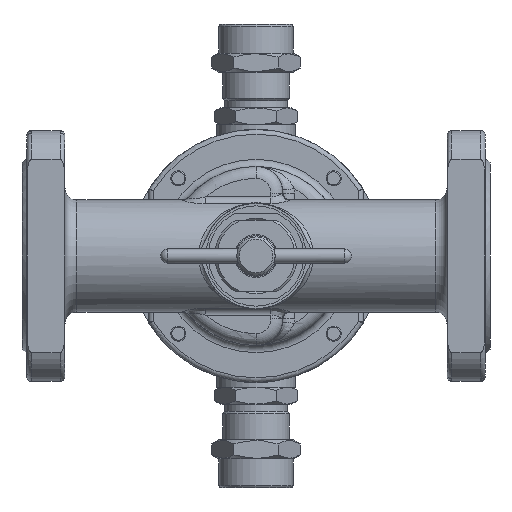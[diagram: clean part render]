
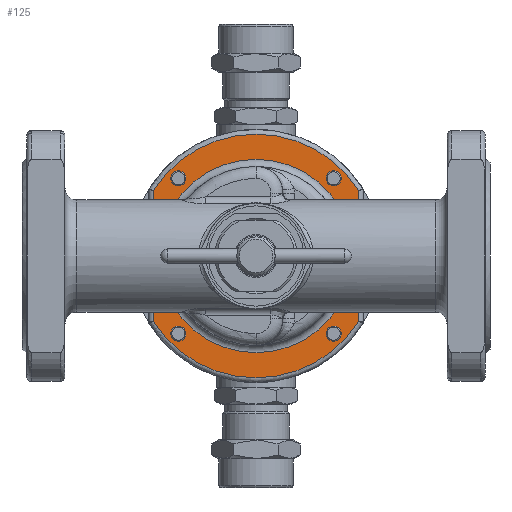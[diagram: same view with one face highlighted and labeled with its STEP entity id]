
A CAD part, front view. The second image highlights one B-rep face of the part: STEP entity #125.
In plain terms, the highlighted planar face has unit normal (0, -1, 0).
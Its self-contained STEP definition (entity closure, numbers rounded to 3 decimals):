
#125=ADVANCED_FACE('',(#4442,#4444,#4446,#4448,#4450,#4452),#4454,.F.);
#4442=FACE_BOUND('',#4443,.T.);
#4443=EDGE_LOOP('',(#21447));
#4444=FACE_BOUND('',#4445,.T.);
#4445=EDGE_LOOP('',(#21448));
#4446=FACE_BOUND('',#4447,.T.);
#4447=EDGE_LOOP('',(#21449));
#4448=FACE_BOUND('',#4449,.T.);
#4449=EDGE_LOOP('',(#21450));
#4450=FACE_BOUND('',#4451,.T.);
#4451=EDGE_LOOP('',(#21451));
#4452=FACE_OUTER_BOUND('',#4453,.T.);
#4453=EDGE_LOOP('',(#21452,#21453,#21454,#21455));
#4454=PLANE('',#4455);
#4455=AXIS2_PLACEMENT_3D('',#4456,#4457,#4458);
#4456=CARTESIAN_POINT('',(0.,30.,0.));
#4457=DIRECTION('',(0.,1.,0.));
#4458=DIRECTION('',(-1.,0.,0.));
#21447=ORIENTED_EDGE('',*,*,#33358,.F.);
#21448=ORIENTED_EDGE('',*,*,#33359,.T.);
#21449=ORIENTED_EDGE('',*,*,#33360,.T.);
#21450=ORIENTED_EDGE('',*,*,#33310,.T.);
#21451=ORIENTED_EDGE('',*,*,#33361,.T.);
#21452=ORIENTED_EDGE('',*,*,#33362,.F.);
#21453=ORIENTED_EDGE('',*,*,#33363,.F.);
#21454=ORIENTED_EDGE('',*,*,#33364,.F.);
#21455=ORIENTED_EDGE('',*,*,#33365,.F.);
#33310=EDGE_CURVE('',#38188,#38188,#38190,.T.);
#33358=EDGE_CURVE('',#38276,#38276,#38277,.T.);
#33359=EDGE_CURVE('',#38278,#38278,#38279,.T.);
#33360=EDGE_CURVE('',#38280,#38280,#38281,.T.);
#33361=EDGE_CURVE('',#38282,#38282,#38283,.T.);
#33362=EDGE_CURVE('',#38284,#38285,#38286,.T.);
#33363=EDGE_CURVE('',#38287,#38284,#38288,.T.);
#33364=EDGE_CURVE('',#38289,#38287,#38290,.T.);
#33365=EDGE_CURVE('',#38285,#38289,#38291,.T.);
#38188=VERTEX_POINT('',#46252);
#38190=CIRCLE('',#46256,3.15);
#38276=VERTEX_POINT('',#46479);
#38277=CIRCLE('',#46480,40.5);
#38278=VERTEX_POINT('',#46484);
#38279=CIRCLE('',#46485,3.15);
#38280=VERTEX_POINT('',#46489);
#38281=CIRCLE('',#46490,3.15);
#38282=VERTEX_POINT('',#46494);
#38283=CIRCLE('',#46495,3.15);
#38284=VERTEX_POINT('',#46499);
#38285=VERTEX_POINT('',#46500);
#38286=CIRCLE('',#46501,51.);
#38287=VERTEX_POINT('',#46505);
#38288=LINE('',#46506,#46507);
#38289=VERTEX_POINT('',#46509);
#38290=CIRCLE('',#46510,51.);
#38291=LINE('',#46514,#46515);
#46252=CARTESIAN_POINT('',(29.377,30.,32.527));
#46256=AXIS2_PLACEMENT_3D('',#46257,#46258,#46259);
#46257=CARTESIAN_POINT('',(32.527,30.,32.527));
#46258=DIRECTION('',(0.,1.,0.));
#46259=DIRECTION('',(-1.,0.,0.));
#46479=CARTESIAN_POINT('',(-40.5,30.,0.));
#46480=AXIS2_PLACEMENT_3D('',#46481,#46482,#46483);
#46481=CARTESIAN_POINT('',(0.,30.,0.));
#46482=DIRECTION('',(0.,-1.,0.));
#46483=DIRECTION('',(-1.,0.,0.));
#46484=CARTESIAN_POINT('',(-35.677,30.,-32.527));
#46485=AXIS2_PLACEMENT_3D('',#46486,#46487,#46488);
#46486=CARTESIAN_POINT('',(-32.527,30.,-32.527));
#46487=DIRECTION('',(0.,1.,0.));
#46488=DIRECTION('',(-1.,0.,0.));
#46489=CARTESIAN_POINT('',(29.377,30.,-32.527));
#46490=AXIS2_PLACEMENT_3D('',#46491,#46492,#46493);
#46491=CARTESIAN_POINT('',(32.527,30.,-32.527));
#46492=DIRECTION('',(0.,1.,0.));
#46493=DIRECTION('',(-1.,0.,0.));
#46494=CARTESIAN_POINT('',(-35.677,30.,32.527));
#46495=AXIS2_PLACEMENT_3D('',#46496,#46497,#46498);
#46496=CARTESIAN_POINT('',(-32.527,30.,32.527));
#46497=DIRECTION('',(0.,1.,0.));
#46498=DIRECTION('',(-1.,0.,0.));
#46499=CARTESIAN_POINT('',(43.,30.,-27.423));
#46500=CARTESIAN_POINT('',(-43.,30.,-27.423));
#46501=AXIS2_PLACEMENT_3D('',#46502,#46503,#46504);
#46502=CARTESIAN_POINT('',(0.,30.,0.));
#46503=DIRECTION('',(0.,1.,0.));
#46504=DIRECTION('',(0.843,0.,-0.538));
#46505=CARTESIAN_POINT('',(43.,30.,27.423));
#46506=CARTESIAN_POINT('',(43.,30.,27.423));
#46507=VECTOR('',#46508,1.);
#46508=DIRECTION('',(0.,0.,-1.));
#46509=CARTESIAN_POINT('',(-43.,30.,27.423));
#46510=AXIS2_PLACEMENT_3D('',#46511,#46512,#46513);
#46511=CARTESIAN_POINT('',(0.,30.,0.));
#46512=DIRECTION('',(0.,1.,0.));
#46513=DIRECTION('',(-0.843,0.,0.538));
#46514=CARTESIAN_POINT('',(-43.,30.,-27.423));
#46515=VECTOR('',#46516,1.);
#46516=DIRECTION('',(0.,0.,1.));
